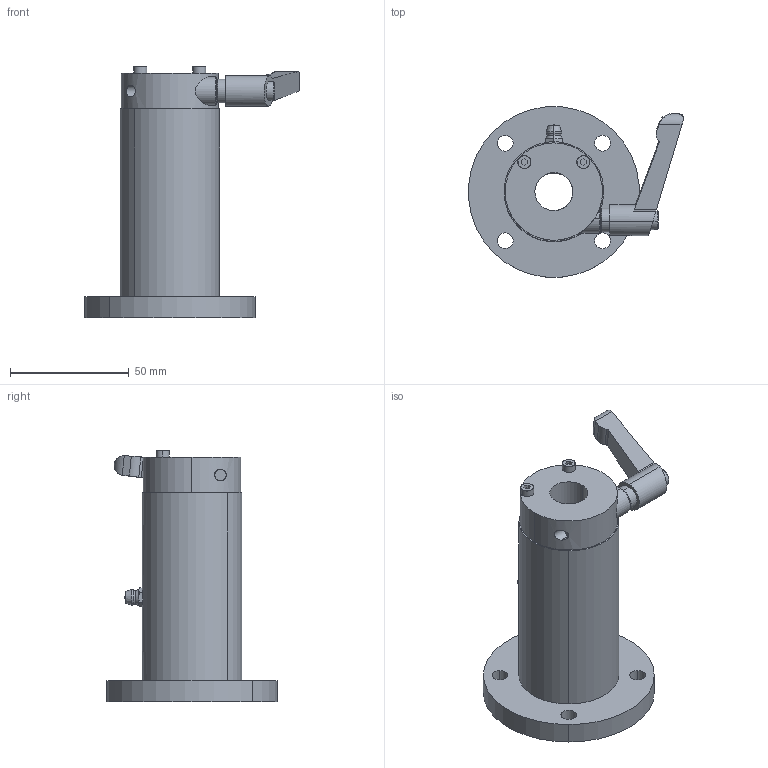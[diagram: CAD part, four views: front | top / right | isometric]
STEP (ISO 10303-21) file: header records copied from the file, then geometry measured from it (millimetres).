
FILE_DESCRIPTION (( 'STEP AP214' ), '1' );
FILE_NAME ('LFW16-OH-C.STEP', '2023-06-27T02:03:46', ( '' ), ( '' ), 'SwSTEP 2.0', 'SolidWorks 2019', '' );
FILE_SCHEMA (( 'AUTOMOTIVE_DESIGN' ));
Length unit declared in the file: millimetre
Products named in the file (3): LFW16-OH; “ÁSCK1615CO-S3.4; LFW16-OH-C
Assembly tree (2 placements, depth 2):
  LFW16-OH-C
    LFW16-OH
    “ÁSCK1615CO-S3.4
Bounding box: 90.36 x 71.73 x 106 mm (x, y, z)
Volume: 147130.7 mm3; surface area: 38424.7 mm2
Topology: 3 solids, 9 shells, 224 faces, 541 edges, 343 vertices
Faces by surface type: cylinder 80, plane 65, bspline 47, cone 20, torus 8, sphere 4
Entity records: 10030 total; most frequent: CARTESIAN_POINT 2222, DIRECTION 1129, ORIENTED_EDGE 1078, EDGE_CURVE 539, AXIS2_PLACEMENT_3D 473, VERTEX_POINT 342, CIRCLE 291, EDGE_LOOP 273
